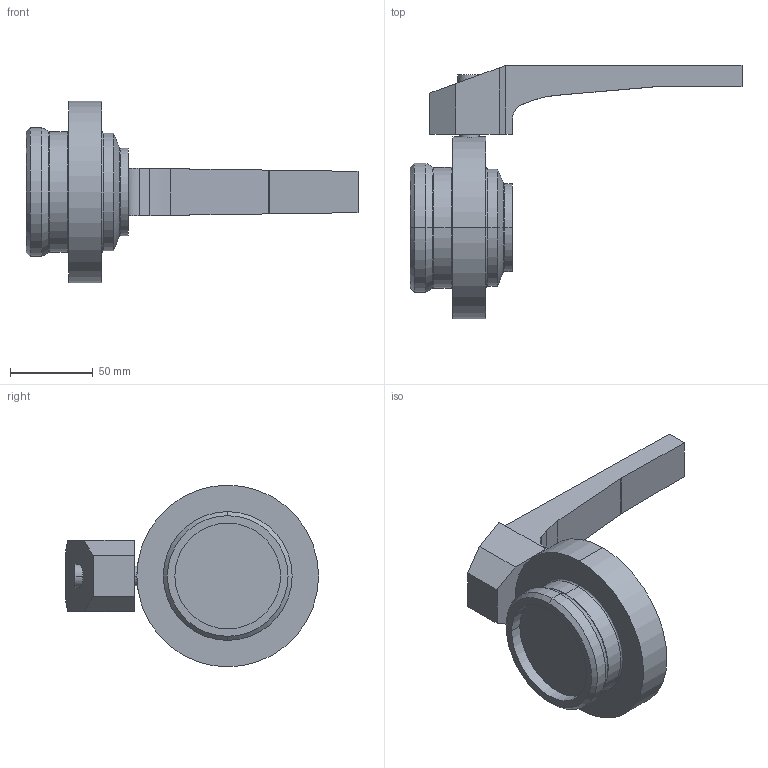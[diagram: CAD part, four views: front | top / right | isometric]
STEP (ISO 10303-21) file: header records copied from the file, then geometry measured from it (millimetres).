
FILE_DESCRIPTION(('OneSpaceDesigner STEP Export'),'2;1');
FILE_NAME('SV1-50-H-1S-2G.stp','2011-02-23T11:25:56',(''),(''),'OneSpace Designer STEP processor for AP214 (Solid Model)','OneSpace Modeling 15.00B 25-Jun-2007 (C) CoCreate Software GmbH','');
FILE_SCHEMA(('AUTOMOTIVE_DESIGN { 1 0 10303 214 1 1 1 1 }'));
Length unit declared in the file: millimetre
Products named in the file (4): SV1-50-1S-1G-Kern; Handhebel-SV; SV1-50-1S-1G; SV1-50-H-1S-2G.stp
Assembly tree (3 placements, depth 3):
  SV1-50-H-1S-2G.stp
    SV1-50-1S-1G
      Handhebel-SV
      SV1-50-1S-1G-Kern
Bounding box: 201 x 153.24 x 110 mm (x, y, z)
Volume: 449293 mm3; surface area: 58265 mm2
Topology: 2 solids, 2 shells, 60 faces, 130 edges, 80 vertices
Faces by surface type: plane 25, cylinder 21, torus 8, cone 6
Entity records: 1950 total; most frequent: CARTESIAN_POINT 650, ORIENTED_EDGE 260, DIRECTION 238, EDGE_CURVE 130, AXIS2_PLACEMENT_3D 84, VERTEX_POINT 80, VECTOR 70, LINE 70
